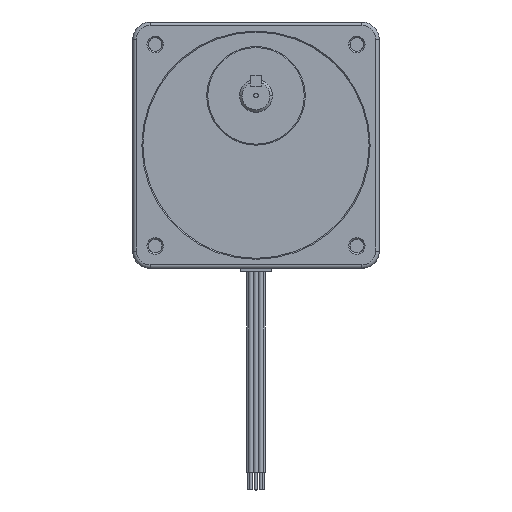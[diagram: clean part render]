
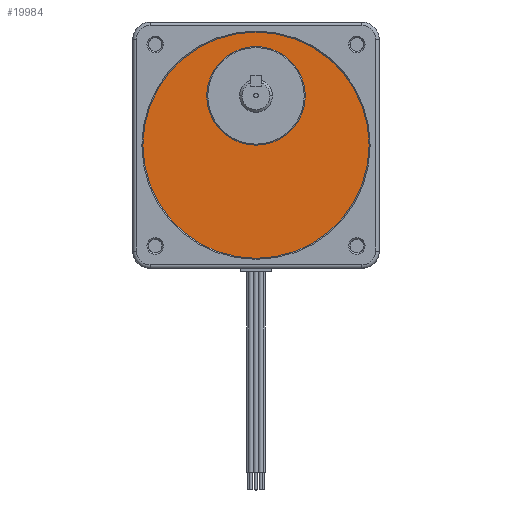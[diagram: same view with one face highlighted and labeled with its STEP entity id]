
A CAD part, top view. The second image highlights one B-rep face of the part: STEP entity #19984.
In plain terms, the highlighted planar face has unit normal (0, 0, 1).
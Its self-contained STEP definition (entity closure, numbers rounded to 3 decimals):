
#242 = EDGE_CURVE ( 'NONE', #247, #333, #4052, .T. ) ;
#247 = VERTEX_POINT ( 'NONE', #3847 ) ;
#333 = VERTEX_POINT ( 'NONE', #4400 ) ;
#3239 = VERTEX_POINT ( 'NONE', #13665 ) ;
#3242 = EDGE_CURVE ( 'NONE', #7579, #3239, #13688, .T. ) ;
#3847 = CARTESIAN_POINT ( 'NONE',  ( -41.275, 0., 41.012 ) ) ;
#4047 = AXIS2_PLACEMENT_3D ( 'NONE', #4086, #4083, #4082 ) ;
#4052 = CIRCLE ( 'NONE', #4047, 41.275 ) ;
#4082 = DIRECTION ( 'NONE',  ( 1., 0., 0. ) ) ;
#4083 = DIRECTION ( 'NONE',  ( 0., 0., 1. ) ) ;
#4086 = CARTESIAN_POINT ( 'NONE',  ( 0., 0., 41.012 ) ) ;
#4400 = CARTESIAN_POINT ( 'NONE',  ( 41.275, 0., 41.012 ) ) ;
#7579 = VERTEX_POINT ( 'NONE', #14123 ) ;
#13665 = CARTESIAN_POINT ( 'NONE',  ( -17.996, 18.009, 41.012 ) ) ;
#13680 = DIRECTION ( 'NONE',  ( 0., 0., 1. ) ) ;
#13681 = CARTESIAN_POINT ( 'NONE',  ( 0., 18.009, 41.012 ) ) ;
#13686 = AXIS2_PLACEMENT_3D ( 'NONE', #13681, #13680, #13728 ) ;
#13688 = CIRCLE ( 'NONE', #13686, 17.996 ) ;
#13728 = DIRECTION ( 'NONE',  ( 1., 0., 0. ) ) ;
#14123 = CARTESIAN_POINT ( 'NONE',  ( 17.996, 18.009, 41.012 ) ) ;
#18138 = PLANE ( 'NONE',  #18187 ) ;
#18158 = CARTESIAN_POINT ( 'NONE',  ( 0., 0., 41.012 ) ) ;
#18170 = CIRCLE ( 'NONE', #18211, 17.996 ) ;
#18172 = FACE_OUTER_BOUND ( 'NONE', #19985, .T. ) ;
#18184 = FACE_BOUND ( 'NONE', #19982, .T. ) ;
#18187 = AXIS2_PLACEMENT_3D ( 'NONE', #18158, #18215, #18214 ) ;
#18206 = CARTESIAN_POINT ( 'NONE',  ( 0., 18.009, 41.012 ) ) ;
#18211 = AXIS2_PLACEMENT_3D ( 'NONE', #18206, #18245, #18238 ) ;
#18214 = DIRECTION ( 'NONE',  ( 1., 0., 0. ) ) ;
#18215 = DIRECTION ( 'NONE',  ( 0., 0., 1. ) ) ;
#18238 = DIRECTION ( 'NONE',  ( 1., 0., 0. ) ) ;
#18245 = DIRECTION ( 'NONE',  ( 0., 0., 1. ) ) ;
#18368 = CIRCLE ( 'NONE', #18399, 41.275 ) ;
#18396 = DIRECTION ( 'NONE',  ( 1., 0., 0. ) ) ;
#18397 = DIRECTION ( 'NONE',  ( 0., 0., 1. ) ) ;
#18398 = CARTESIAN_POINT ( 'NONE',  ( 0., 0., 41.012 ) ) ;
#18399 = AXIS2_PLACEMENT_3D ( 'NONE', #18398, #18397, #18396 ) ;
#19975 = ORIENTED_EDGE ( 'NONE', *, *, #3242, .F. ) ;
#19976 = ORIENTED_EDGE ( 'NONE', *, *, #242, .T. ) ;
#19982 = EDGE_LOOP ( 'NONE', ( #20043, #19975 ) ) ;
#19984 = ADVANCED_FACE ( 'NONE', ( #18172, #18184 ), #18138, .T. ) ;
#19985 = EDGE_LOOP ( 'NONE', ( #20044, #19976 ) ) ;
#19990 = EDGE_CURVE ( 'NONE', #3239, #7579, #18170, .T. ) ;
#20036 = EDGE_CURVE ( 'NONE', #333, #247, #18368, .T. ) ;
#20043 = ORIENTED_EDGE ( 'NONE', *, *, #19990, .F. ) ;
#20044 = ORIENTED_EDGE ( 'NONE', *, *, #20036, .T. ) ;
